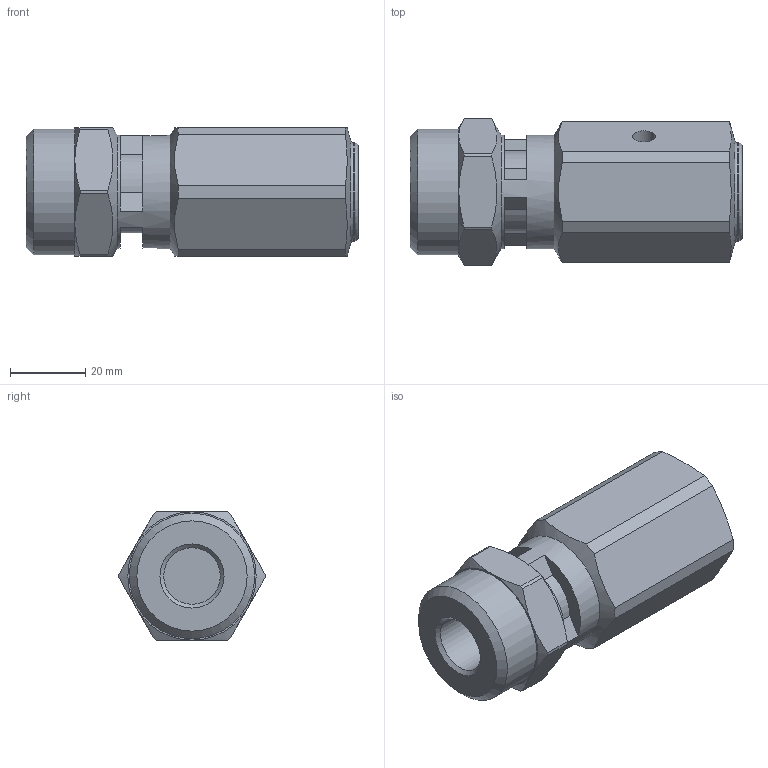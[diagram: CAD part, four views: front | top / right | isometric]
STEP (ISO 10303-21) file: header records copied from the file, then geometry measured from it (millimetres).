
FILE_DESCRIPTION(/* description */ (''),/* implementation_level */ '2;1');
FILE_NAME(/* name */ 'S:\_Tecnico\ArchivioUT\_Disegni3D ingombri\DISEGNI 3D per ingombri\RV\RV101201.stp',/* time_stamp */ '2020-11-10T11:45:45+01:00',/* author */ ('ufficiotecnico3'),/* organization */ (''),/* preprocessor_version */ 'ST-DEVELOPER v18',/* originating_system */ 'Autodesk Inventor 2020',/* authorisation */ '');
FILE_SCHEMA (('AUTOMOTIVE_DESIGN { 1 0 10303 214 3 1 1 }'));
Length unit declared in the file: millimetre
Products named in the file (1): RV101201
Bounding box: 88 x 38.76 x 34 mm (x, y, z)
Volume: 71062.5 mm3; surface area: 14234.6 mm2
Topology: 1 solids, 1 shells, 67 faces, 180 edges, 121 vertices
Faces by surface type: plane 42, cone 12, cylinder 10, torus 3
Full cylindrical faces by diameter (mm): 6 x1, 9 x1, 15 x1, 22.5 x1, 26 x1, 30 x1, 33.249 x1
Entity records: 2103 total; most frequent: CARTESIAN_POINT 483, ORIENTED_EDGE 360, DIRECTION 320, EDGE_CURVE 180, AXIS2_PLACEMENT_3D 129, VERTEX_POINT 121, EDGE_LOOP 73, FACE_OUTER_BOUND 67
